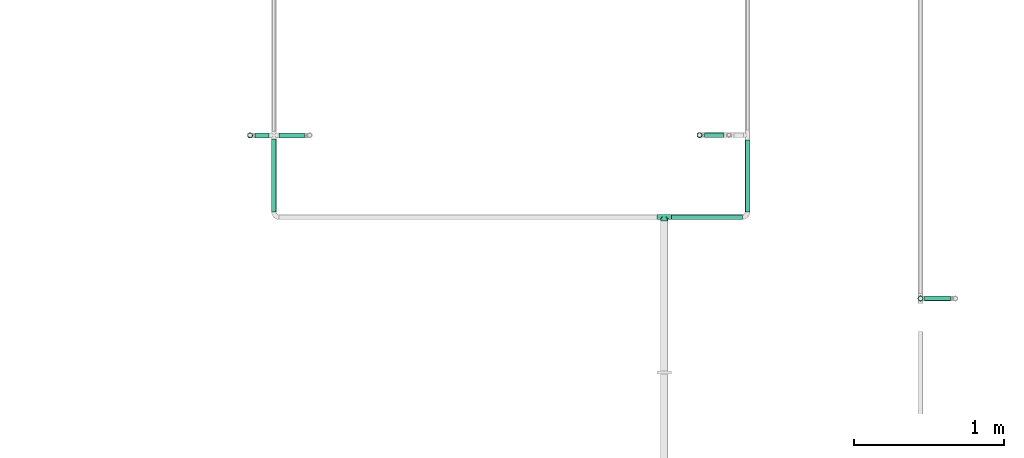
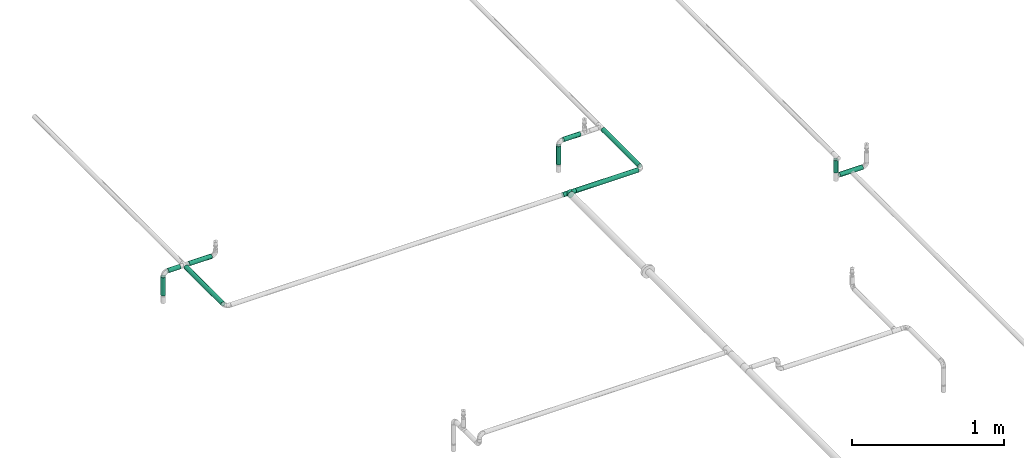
# One storey, part 24 of 157: 10 flow segments, 1 flow fitting.
"""IFC2X3 building model written with IfcOpenShell, lengths in millimetres."""

from ifc_helpers import new_model, entity, si_unit, converted_unit, derived_unit, direction, frame, origin_with_axes, origin_2d_with_axis, place, context, subcontext, project, spatial, hollow_circle, extrude, open_shell, surface_model, source, transform, mapped, type_object, element, save


model = new_model("IFC2X3")

# Units and contexts
model_context = context("Model", 3, precision=0.01, world=frame((0.0, 4.29681676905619e-09, 0.0)), true_north=direction((4.01073788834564e-13, 1.0)))
plan_context = context("Plan", 3, precision=0.01, world=frame((0.0, 4.29681676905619e-09, 0.0)), true_north=direction((4.01073788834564e-13, 1.0)))
body_context = subcontext(model_context, "Body", "Model", "MODEL_VIEW")
ifc_project = project(units=[converted_unit("PLANEANGLEUNIT", "DEGREE", entity("IfcPositiveLengthMeasure", 0.0174532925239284), si_unit("PLANEANGLEUNIT", "RADIAN"), dimensions=[0, 0, 0, 0, 0, 0, 0]), si_unit("AREAUNIT", "SQUARE_METRE"), si_unit("LENGTHUNIT", "METRE", prefix="MILLI"), si_unit("MASSUNIT", "GRAM", prefix="KILO"), si_unit("POWERUNIT", "WATT"), si_unit("PRESSUREUNIT", "PASCAL"), si_unit("FORCEUNIT", "NEWTON", prefix="KILO"), si_unit("ELECTRICCURRENTUNIT", "AMPERE"), si_unit("THERMODYNAMICTEMPERATUREUNIT", "DEGREE_CELSIUS"), si_unit("TIMEUNIT", "SECOND"), si_unit("VOLUMEUNIT", "CUBIC_METRE"), derived_unit("LINEARVELOCITYUNIT", [(si_unit("LENGTHUNIT", "METRE"), 1), (si_unit("TIMEUNIT", "SECOND"), -1)]), derived_unit("VOLUMETRICFLOWRATEUNIT", [(si_unit("VOLUMEUNIT", "CUBIC_METRE"), 1), (si_unit("TIMEUNIT", "SECOND"), -1)]), derived_unit("THERMALTRANSMITTANCEUNIT", [(si_unit("POWERUNIT", "WATT"), 1), (si_unit("THERMODYNAMICTEMPERATUREUNIT", "KELVIN"), -1), (si_unit("AREAUNIT", "SQUARE_METRE"), -1)])], contexts=[model_context, plan_context])

# Site, building, storey
site_placement = place(None, frame((0.0, -4.29681676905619e-09, 0.0), z_axis=(0.0, 0.0, 1.0), x_axis=(1.0, 0.0, 0.0)))
site = spatial("IfcSite", under=ifc_project, at=site_placement, CompositionType="ELEMENT")
building_placement = place(site_placement, frame((0.0, 4.29681676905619e-09, 0.0), z_axis=(0.0, 0.0, 1.0), x_axis=(1.0, 0.0, 0.0)))
building = spatial("IfcBuilding", under=site, at=building_placement, Name="mc-building", CompositionType="ELEMENT")
storey_placement = place(building_placement, frame((0.0, 0.0, 204000.0), z_axis=(0.0, 0.0, 1.0), x_axis=(1.0, 0.0, 0.0)))
storey = spatial("IfcBuildingStorey", under=building, at=storey_placement, Name="Nivå D", CompositionType="ELEMENT", Elevation=204000.0)

# Flow fitting
pipe_fitting_type = type_object("IfcPipeFittingType", Name="magi_pipe_fe_tee_centric_90_NOR", PredefinedType="JUNCTION")
shared_shape_1 = source(origin_with_axes(), body_context, "Body", "SurfaceModel", [
    surface_model("IfcShellBasedSurfaceModel", [(-48.4, 4.37404, -16.32415), (-48.4, 0.0, -16.9), (-48.4, 16.32415, -4.37404), (-48.4, 8.45, -14.63583), (-48.4, 11.9501, -11.9501), (-48.4, 14.63583, -8.45), (-48.4, -16.9, 0.0), (-48.4, -11.9501, -11.9501), (-48.4, -14.63583, -8.45), (-48.4, -8.45, -14.63583), (-48.4, -4.37404, -16.32415), (-48.4, -16.32415, -4.37404), (-48.4, -8.45, 14.63583), (-48.4, 14.63583, 8.45), (-48.4, 16.32415, 4.37404), (-48.4, 8.45, 14.63583), (-48.4, 11.9501, 11.9501), (-48.4, 4.37404, 16.32415), (-48.4, -11.9501, 11.9501), (-48.4, -14.63583, 8.45), (-48.4, -16.32415, 4.37404), (-48.4, -4.37404, 16.32415), (-48.4, 0.0, 16.9), (-48.4, 16.9, 0.0), (48.4, 4.37404, -16.32415), (48.4, -16.9, 0.0), (48.4, 0.0, -16.9), (48.4, 11.9501, -11.9501), (48.4, 8.45, -14.63583), (48.4, 14.63583, -8.45), (48.4, 16.32415, -4.37404), (48.4, -11.9501, -11.9501), (48.4, -8.45, -14.63583), (48.4, -4.37404, -16.32415), (48.4, -14.63583, -8.45), (48.4, -16.32415, -4.37404), (48.4, 16.32415, 4.37404), (48.4, 8.45, 14.63583), (48.4, 14.63583, 8.45), (48.4, -16.32415, 4.37404), (48.4, 11.9501, 11.9501), (48.4, -8.45, 14.63583), (48.4, 4.37404, 16.32415), (48.4, -14.63583, 8.45), (48.4, -11.9501, 11.9501), (48.4, 0.0, 16.9), (48.4, -4.37404, 16.32415), (48.4, 16.9, 0.0), (23.88418, -16.44457, 3.89692), (48.4, -15.47999, 6.41202), (23.00671, -15.14195, 7.50542), (23.44544, -15.79326, 5.70117), (24.2, -16.9, 0.0), (20.27443, -10.53672, 13.21315), (48.4, -10.20005, 13.29297), (21.73564, -13.13043, 10.63963), (48.4, -13.29297, 10.20005), (21.00504, -11.83358, 11.92639), (22.37118, -14.13619, 9.07253), (-23.00671, -15.14195, 7.50542), (-22.37118, -14.13619, 9.07253), (-48.4, -15.47999, 6.41202), (-23.44544, -15.79326, 5.70117), (-24.2, -16.9, 0.0), (-23.88418, -16.44457, 3.89692), (18.85043, -7.43699, 15.17568), (48.4, -6.41202, 15.47999), (-21.00504, -11.83358, 11.92639), (-20.27443, -10.53672, 13.21315), (-18.85043, -7.43699, 15.17568), (-48.4, -13.29297, 10.20005), (-48.4, -10.20005, 13.29297), (-48.4, -6.41202, 15.47999), (-21.73564, -13.13043, 10.63963), (17.75071, -3.88043, 16.44847), (17.32137, 0.0, 16.9), (-17.32137, 0.0, 16.9), (-17.75071, -3.88043, 16.44847), (-48.4, -15.47999, -6.41202), (-23.00671, -15.14195, -7.50542), (-23.44544, -15.79326, -5.70117), (17.75071, -3.88043, -16.44847), (17.32137, 0.0, -16.9), (-22.37118, -14.13619, -9.07253), (-48.4, -13.29297, -10.20005), (-21.73564, -13.13043, -10.63963), (-18.85043, -7.43699, -15.17568), (-48.4, -6.41202, -15.47999), (-17.32137, 0.0, -16.9), (23.44544, -15.79326, -5.70117), (48.4, -15.47999, -6.41202), (-17.75071, -3.88043, -16.44847), (-23.88418, -16.44457, -3.89692), (-20.27443, -10.53672, -13.21315), (-48.4, -10.20005, -13.29297), (48.4, -6.41202, -15.47999), (22.37118, -14.13619, -9.07253), (48.4, -13.29297, -10.20005), (20.27443, -10.53672, -13.21315), (48.4, -10.20005, -13.29297), (21.00504, -11.83358, -11.92639), (23.00671, -15.14195, -7.50542), (18.85043, -7.43699, -15.17568), (21.73564, -13.13043, -10.63963), (23.88418, -16.44457, -3.89692), (-21.00504, -11.83358, -11.92639), (0.0, -25.35, -24.2), (6.26342, -25.35, -23.37541), (12.1, -25.35, -20.95781), (12.1, -25.35, 20.95781), (17.11198, -25.35, -17.11198), (20.95781, -25.35, -12.1), (23.37541, -25.35, -6.26342), (-12.1, -25.35, -20.95781), (-20.95781, -25.35, -12.1), (-17.11198, -25.35, -17.11198), (-6.26342, -25.35, -23.37541), (-23.37541, -25.35, -6.26342), (-24.2, -25.35, 0.0), (24.2, -25.35, 0.0), (23.37541, -25.35, 6.26342), (20.95781, -25.35, 12.1), (-23.37541, -25.35, 6.26342), (17.11198, -25.35, 17.11198), (6.26342, -25.35, 23.37541), (-17.11198, -25.35, 17.11198), (-20.95781, -25.35, 12.1), (-12.1, -25.35, 20.95781), (0.0, -25.35, 24.2), (-6.26342, -25.35, 23.37541), (-23.7877, -25.35, 3.13171), (-13.05143, 0.0, 20.37892), (-8.10841, 0.0, 22.80118), (-2.74697, 0.0, 24.04359), (2.75572, 0.0, 24.04259), (8.11548, 0.0, 22.79866), (13.05561, 0.0, 20.37623), (23.7877, -25.35, 3.13171), (23.7877, -25.35, -3.13171), (13.05561, 0.0, -20.37623), (8.11548, 0.0, -22.79866), (2.75572, 0.0, -24.04259), (-23.7877, -25.35, -3.13171), (-8.10841, 0.0, -22.80118), (-13.05143, 0.0, -20.37892), (-2.74697, 0.0, -24.04359)], [open_shell([[[0, 1, 2]], [[3, 0, 4]], [[0, 2, 5]], [[4, 0, 5]], [[6, 2, 1]], [[7, 8, 9]], [[1, 10, 9]], [[11, 6, 8]], [[1, 9, 8]], [[1, 8, 6]], [[6, 12, 2]], [[13, 14, 2]], [[2, 15, 13]], [[2, 12, 15]], [[16, 13, 15]], [[12, 17, 15]], [[18, 12, 19]], [[20, 19, 12]], [[21, 22, 12]], [[12, 6, 20]], [[12, 22, 17]], [[23, 2, 14]], [[24, 25, 26]], [[27, 24, 28]], [[29, 30, 24]], [[29, 24, 27]], [[25, 24, 30]], [[26, 31, 32]], [[32, 33, 26]], [[34, 25, 35]], [[31, 26, 34]], [[25, 34, 26]], [[30, 36, 25]], [[25, 36, 37]], [[37, 36, 38]], [[37, 39, 25]], [[37, 38, 40]], [[41, 37, 42]], [[43, 41, 44]], [[41, 43, 39]], [[41, 45, 46]], [[41, 39, 37]], [[42, 45, 41]], [[30, 47, 36]], [[25, 39, 48]], [[49, 50, 51]], [[48, 52, 25]], [[39, 49, 51]], [[53, 44, 54]], [[49, 43, 50]], [[54, 41, 53]], [[44, 55, 56]], [[55, 44, 57]], [[39, 51, 48]], [[43, 58, 50]], [[19, 59, 60]], [[44, 53, 57]], [[59, 61, 62]], [[20, 62, 61]], [[63, 64, 6]], [[6, 64, 20]], [[20, 64, 62]], [[65, 41, 66]], [[18, 67, 68]], [[58, 56, 55]], [[56, 58, 43]], [[12, 68, 69]], [[70, 19, 60]], [[18, 68, 71]], [[69, 72, 12]], [[70, 60, 73]], [[18, 73, 67]], [[53, 41, 65]], [[74, 45, 75]], [[66, 74, 65]], [[74, 66, 46]], [[74, 46, 45]], [[73, 18, 70]], [[75, 45, 42]], [[38, 36, 14]], [[16, 37, 40]], [[13, 40, 38]], [[42, 37, 15]], [[23, 36, 47]], [[22, 76, 17]], [[68, 12, 71]], [[21, 77, 22]], [[72, 77, 21]], [[22, 77, 76]], [[76, 75, 17]], [[77, 72, 69]], [[42, 17, 75]], [[15, 17, 42]], [[15, 37, 16]], [[13, 16, 40]], [[14, 13, 38]], [[36, 23, 14]], [[59, 19, 61]], [[78, 79, 80]], [[27, 4, 29]], [[5, 30, 29]], [[3, 27, 28]], [[23, 47, 30]], [[26, 33, 81]], [[26, 82, 24]], [[82, 26, 81]], [[83, 84, 85]], [[28, 24, 0]], [[86, 9, 87]], [[82, 88, 24]], [[35, 89, 90]], [[2, 30, 5]], [[3, 4, 27]], [[5, 29, 4]], [[23, 30, 2]], [[1, 88, 91]], [[11, 80, 92]], [[93, 7, 94]], [[91, 86, 87]], [[88, 1, 0]], [[1, 91, 10]], [[87, 10, 91]], [[0, 3, 28]], [[88, 0, 24]], [[33, 95, 81]], [[34, 96, 97]], [[31, 98, 99]], [[98, 31, 100]], [[101, 34, 90]], [[32, 98, 102]], [[96, 103, 97]], [[35, 25, 104]], [[84, 83, 8]], [[101, 90, 89]], [[52, 104, 25]], [[31, 103, 100]], [[89, 35, 104]], [[93, 9, 86]], [[98, 32, 99]], [[93, 94, 9]], [[7, 105, 85]], [[7, 85, 84]], [[103, 31, 97]], [[81, 95, 102]], [[34, 101, 96]], [[7, 93, 105]], [[92, 63, 6]], [[11, 78, 80]], [[79, 78, 8]], [[11, 92, 6]], [[79, 8, 83]], [[32, 102, 95]], [[106, 107, 108]], [[109, 106, 108]], [[110, 111, 112]], [[110, 112, 108]], [[109, 113, 106]], [[113, 114, 115]], [[113, 116, 106]], [[113, 117, 114]], [[117, 113, 118]], [[113, 109, 118]], [[119, 108, 112]], [[119, 120, 121]], [[119, 121, 109]], [[109, 122, 118]], [[109, 121, 123]], [[122, 109, 124]], [[122, 125, 126]], [[122, 124, 125]], [[127, 128, 129]], [[128, 127, 125]], [[124, 128, 125]], [[109, 108, 119]], [[130, 122, 64]], [[63, 118, 130]], [[64, 122, 59]], [[126, 125, 68]], [[125, 127, 131]], [[122, 126, 59]], [[132, 127, 129]], [[59, 126, 73]], [[68, 125, 69]], [[126, 68, 73]], [[77, 125, 131]], [[132, 131, 127]], [[77, 131, 76]], [[69, 125, 77]], [[132, 129, 133]], [[129, 128, 133]], [[124, 134, 128]], [[109, 135, 124]], [[63, 130, 64]], [[123, 136, 109]], [[119, 52, 137]], [[121, 120, 50]], [[137, 52, 48]], [[123, 121, 53]], [[48, 120, 137]], [[48, 50, 120]], [[74, 75, 136]], [[136, 135, 109]], [[135, 134, 124]], [[53, 121, 55]], [[74, 136, 123]], [[123, 65, 74]], [[123, 53, 65]], [[121, 50, 55]], [[128, 134, 133]], [[138, 112, 104]], [[52, 119, 138]], [[104, 112, 101]], [[111, 110, 98]], [[110, 108, 139]], [[112, 111, 101]], [[140, 108, 107]], [[101, 111, 103]], [[98, 110, 102]], [[111, 98, 103]], [[81, 110, 139]], [[140, 139, 108]], [[81, 139, 82]], [[102, 110, 81]], [[140, 107, 141]], [[107, 106, 141]], [[92, 117, 142]], [[143, 116, 113]], [[52, 138, 104]], [[113, 115, 144]], [[145, 106, 116]], [[118, 63, 142]], [[114, 117, 79]], [[142, 63, 92]], [[115, 114, 93]], [[92, 79, 117]], [[145, 116, 143]], [[91, 88, 144]], [[143, 113, 144]], [[93, 114, 85]], [[91, 144, 115]], [[115, 86, 91]], [[115, 93, 86]], [[114, 79, 85]], [[106, 145, 141]], [[75, 76, 133]], [[76, 131, 132]], [[133, 136, 75]], [[133, 134, 135]], [[133, 76, 132]], [[135, 136, 133]], [[144, 141, 145]], [[145, 143, 144]], [[140, 141, 82]], [[141, 144, 82]], [[82, 144, 88]], [[139, 140, 82]]])]),
])
flow_fitting_placement = place(storey_placement, frame((529390.56587, 418356.83219, 2690.0), z_axis=(0.0, 0.0, -1.0), x_axis=(-1.0, 0.0, 0.0)))
element("IfcFlowFitting", 1, at=flow_fitting_placement, inside=storey, type_object=pipe_fitting_type, Name="magi_pipe_fe_tee_centric_90_NOR", context=body_context, shape_type="MappedRepresentation", body=[
    mapped(shared_shape_1, transform((0.0, 0.0, 0.0), scale=1.0)),
])

# Flow segments
pipe_segment_type = type_object("IfcPipeSegmentType", Name="Stålrør normaltykke", PredefinedType="RIGIDSEGMENT")
shared_shape_2 = source(origin_with_axes(), body_context, "Body", "SweptSolid", [
    extrude(hollow_circle(Radius=16.9, WallThickness=2.0, at=origin_2d_with_axis()), frame((0.0, 0.0, 0.0), z_axis=(1.0, 0.0, 0.0), x_axis=(0.0, 1.0, 0.0)), (0.0, 0.0, 1.0), 98.9),
])
flow_segment_1_placement = place(storey_placement, frame((531100.61546, 417813.86457, 2689.06294), z_axis=(0.0, -1.0, 0.0), x_axis=(-0.00132400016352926, 0.0, -0.999999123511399)))
element("IfcFlowSegment", 2, at=flow_segment_1_placement, inside=storey, type_object=pipe_segment_type, Name="Stålrør normaltykke", context=body_context, shape_type="MappedRepresentation", body=[
    mapped(shared_shape_2, transform((0.0, 0.0, 0.0), scale=1.0)),
])
shared_shape_3 = source(origin_with_axes(), body_context, "Body", "SweptSolid", [
    extrude(hollow_circle(Radius=16.9, WallThickness=2.0, at=origin_2d_with_axis()), frame((0.0, 0.0, 0.0), z_axis=(1.0, 0.0, 0.0), x_axis=(0.0, 1.0, 0.0)), (0.0, 0.0, 1.0), 174.1),
])
flow_segment_2_placement = place(storey_placement, frame((531299.92143, 417813.86457, 2556.21458), z_axis=(-0.000177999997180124, 0.0, 0.999999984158), x_axis=(-0.999999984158, 0.0, -0.000177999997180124)))
element("IfcFlowSegment", 3, at=flow_segment_2_placement, inside=storey, type_object=pipe_segment_type, Name="Stålrør normaltykke", context=body_context, shape_type="MappedRepresentation", body=[
    mapped(shared_shape_3, transform((0.0, 0.0, 0.0), scale=1.0)),
])
shared_shape_4 = source(origin_with_axes(), body_context, "Body", "SweptSolid", [
    extrude(hollow_circle(Radius=16.9, WallThickness=2.0, at=origin_2d_with_axis()), frame((0.0, 0.0, 0.0), z_axis=(1.0, 0.0, 0.0), x_axis=(0.0, 1.0, 0.0)), (0.0, 0.0, 1.0), 486.6),
])
flow_segment_3_placement = place(storey_placement, frame((526786.64533, 418877.27286, 2690.0), z_axis=(0.0, 0.0, 1.0), x_axis=(0.0, -1.0, 0.0)))
element("IfcFlowSegment", 4, at=flow_segment_3_placement, inside=storey, type_object=pipe_segment_type, Name="Stålrør normaltykke", context=body_context, shape_type="MappedRepresentation", body=[
    mapped(shared_shape_4, transform((0.0, 0.0, 0.0), scale=1.0)),
])
shared_shape_5 = source(origin_with_axes(), body_context, "Body", "SweptSolid", [
    extrude(hollow_circle(Radius=16.9, WallThickness=2.0, at=origin_2d_with_axis()), frame((0.0, 0.0, 0.0), z_axis=(1.0, 0.0, 0.0), x_axis=(0.0, 1.0, 0.0)), (0.0, 0.0, 1.0), 473.9),
])
flow_segment_4_placement = place(storey_placement, frame((529438.96587, 418356.83219, 2690.0), z_axis=(0.0, 0.0, 1.0), x_axis=(1.0, 0.0, 0.0)))
element("IfcFlowSegment", 5, at=flow_segment_4_placement, inside=storey, type_object=pipe_segment_type, Name="Stålrør normaltykke", context=body_context, shape_type="MappedRepresentation", body=[
    mapped(shared_shape_5, transform((0.0, 0.0, 0.0), scale=1.0)),
])
shared_shape_6 = source(origin_with_axes(), body_context, "Body", "SweptSolid", [
    extrude(hollow_circle(Radius=16.9, WallThickness=2.0, at=origin_2d_with_axis()), frame((0.0, 0.0, 0.0), z_axis=(1.0, 0.0, 0.0), x_axis=(0.0, 1.0, 0.0)), (0.0, 0.0, 1.0), 128.6),
])
flow_segment_5_placement = place(storey_placement, frame((529789.06438, 418903.94316, 2690.0), z_axis=(0.0, 0.0, 1.0), x_axis=(-1.0, 0.0, 0.0)))
element("IfcFlowSegment", 6, at=flow_segment_5_placement, inside=storey, type_object=pipe_segment_type, Name="Stålrør normaltykke", context=body_context, shape_type="MappedRepresentation", body=[
    mapped(shared_shape_6, transform((0.0, 0.0, 0.0), scale=1.0)),
])
shared_shape_7 = source(origin_with_axes(), body_context, "Body", "SweptSolid", [
    extrude(hollow_circle(Radius=16.9, WallThickness=2.0, at=origin_2d_with_axis()), frame((0.0, 0.0, 0.0), z_axis=(1.0, 0.0, 0.0), x_axis=(0.0, 1.0, 0.0)), (0.0, 0.0, 1.0), 146.8),
])
for number, where, z_axis, x_axis in (
    (7, (529626.64533, 418903.94316, 2656.20000000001), (0.0, -1.0, 0.0), (0.0, 0.0, -1.0)),
    (8, (526627.48821, 418902.62286, 2656.20000000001), (0.0, 1.0, 0.0), (0.0, 0.0, -1.0)),
):
    element("IfcFlowSegment", number, at=place(storey_placement, frame(where, z_axis=z_axis, x_axis=x_axis)), inside=storey, type_object=pipe_segment_type, Name="Stålrør normaltykke", context=body_context, shape_type="MappedRepresentation", body=[
        mapped(shared_shape_7, transform((0.0, 0.0, 0.0), scale=1.0)),
    ])
shared_shape_8 = source(origin_with_axes(), body_context, "Body", "SweptSolid", [
    extrude(hollow_circle(Radius=16.9, WallThickness=2.0, at=origin_2d_with_axis()), frame((0.0, 0.0, 0.0), z_axis=(1.0, 0.0, 0.0), x_axis=(0.0, 1.0, 0.0)), (0.0, 0.0, 1.0), 91.6),
])
flow_segment_6_placement = place(storey_placement, frame((526752.84533, 418902.62286, 2690.0), z_axis=(0.0, 0.0, 1.0), x_axis=(-1.0, 0.0, 0.0)))
element("IfcFlowSegment", 9, at=flow_segment_6_placement, inside=storey, type_object=pipe_segment_type, Name="Stålrør normaltykke", context=body_context, shape_type="MappedRepresentation", body=[
    mapped(shared_shape_8, transform((0.0, 0.0, 0.0), scale=1.0)),
])
shared_shape_9 = source(origin_with_axes(), body_context, "Body", "SweptSolid", [
    extrude(hollow_circle(Radius=16.9, WallThickness=2.0, at=origin_2d_with_axis()), frame((0.0, 0.0, 0.0), z_axis=(1.0, 0.0, 0.0), x_axis=(0.0, 1.0, 0.0)), (0.0, 0.0, 1.0), 171.2),
])
flow_segment_7_placement = place(storey_placement, frame((526991.64339, 418902.62286, 2690.0), z_axis=(0.0, 0.0, 1.0), x_axis=(-1.0, 0.0, 0.0)))
element("IfcFlowSegment", 10, at=flow_segment_7_placement, inside=storey, type_object=pipe_segment_type, Name="Stålrør normaltykke", context=body_context, shape_type="MappedRepresentation", body=[
    mapped(shared_shape_9, transform((0.0, 0.0, 0.0), scale=1.0)),
])
shared_shape_10 = source(origin_with_axes(), body_context, "Body", "SweptSolid", [
    extrude(hollow_circle(Radius=16.9, WallThickness=2.0, at=origin_2d_with_axis()), frame((0.0, 0.0, 0.0), z_axis=(1.0, 0.0, 0.0), x_axis=(0.0, 1.0, 0.0)), (0.0, 0.0, 1.0), 479.5),
])
flow_segment_8_placement = place(storey_placement, frame((529946.64533, 418390.63219, 2690.0), z_axis=(0.0, 0.0, 1.0), x_axis=(0.0, 1.0, 0.0)))
element("IfcFlowSegment", 11, at=flow_segment_8_placement, inside=storey, type_object=pipe_segment_type, Name="Stålrør normaltykke", context=body_context, shape_type="MappedRepresentation", body=[
    mapped(shared_shape_10, transform((0.0, 0.0, 0.0), scale=1.0)),
])

save(model, "model.ifc")
